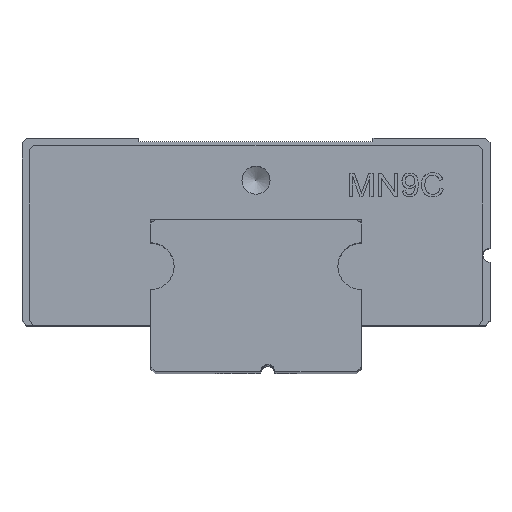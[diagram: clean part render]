
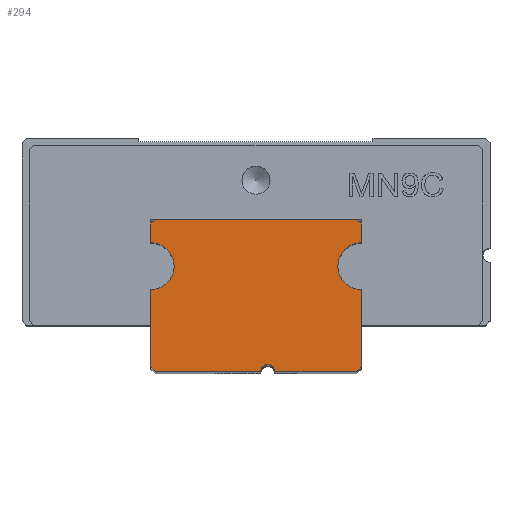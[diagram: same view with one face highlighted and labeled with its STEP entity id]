
A CAD part, top view. The second image highlights one B-rep face of the part: STEP entity #294.
In plain terms, the highlighted planar face has unit normal (0, 0, 1).
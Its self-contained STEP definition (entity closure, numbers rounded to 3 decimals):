
#203=PLANE('',#2637);
#294=ADVANCED_FACE('',(#451),#203,.F.);
#451=FACE_OUTER_BOUND('',#565,.T.);
#565=EDGE_LOOP('',(#954,#955,#956,#957,#958,#959,#960,#961,#962,#963,#964,
#965,#966,#967));
#719=CIRCLE('',#2617,0.3);
#724=CIRCLE('',#2625,1.);
#729=CIRCLE('',#2634,1.);
#954=ORIENTED_EDGE('',*,*,#1854,.T.);
#955=ORIENTED_EDGE('',*,*,#1885,.T.);
#956=ORIENTED_EDGE('',*,*,#1858,.T.);
#957=ORIENTED_EDGE('',*,*,#1864,.T.);
#958=ORIENTED_EDGE('',*,*,#1867,.T.);
#959=ORIENTED_EDGE('',*,*,#1886,.T.);
#960=ORIENTED_EDGE('',*,*,#1870,.T.);
#961=ORIENTED_EDGE('',*,*,#1887,.T.);
#962=ORIENTED_EDGE('',*,*,#1875,.T.);
#963=ORIENTED_EDGE('',*,*,#1881,.T.);
#964=ORIENTED_EDGE('',*,*,#1884,.T.);
#965=ORIENTED_EDGE('',*,*,#1888,.T.);
#966=ORIENTED_EDGE('',*,*,#1842,.T.);
#967=ORIENTED_EDGE('',*,*,#1851,.T.);
#1597=VERTEX_POINT('',#3476);
#1598=VERTEX_POINT('',#3477);
#1602=VERTEX_POINT('',#3520);
#1604=VERTEX_POINT('',#3526);
#1605=VERTEX_POINT('',#3533);
#1606=VERTEX_POINT('',#3534);
#1610=VERTEX_POINT('',#3544);
#1612=VERTEX_POINT('',#3550);
#1615=VERTEX_POINT('',#3557);
#1616=VERTEX_POINT('',#3559);
#1620=VERTEX_POINT('',#3569);
#1621=VERTEX_POINT('',#3570);
#1625=VERTEX_POINT('',#3580);
#1627=VERTEX_POINT('',#3586);
#1842=EDGE_CURVE('',#1597,#1598,#2185,.T.);
#1851=EDGE_CURVE('',#1598,#1602,#719,.T.);
#1854=EDGE_CURVE('',#1602,#1604,#2192,.T.);
#1858=EDGE_CURVE('',#1605,#1606,#2193,.T.);
#1864=EDGE_CURVE('',#1606,#1610,#724,.T.);
#1867=EDGE_CURVE('',#1610,#1612,#2200,.T.);
#1870=EDGE_CURVE('',#1616,#1615,#2203,.T.);
#1875=EDGE_CURVE('',#1620,#1621,#2205,.T.);
#1881=EDGE_CURVE('',#1621,#1625,#729,.T.);
#1884=EDGE_CURVE('',#1625,#1627,#2212,.T.);
#1885=EDGE_CURVE('',#1604,#1605,#2213,.T.);
#1886=EDGE_CURVE('',#1612,#1616,#2214,.T.);
#1887=EDGE_CURVE('',#1615,#1620,#2215,.T.);
#1888=EDGE_CURVE('',#1627,#1597,#2216,.T.);
#2185=LINE('',#3475,#2387);
#2192=LINE('',#3527,#2394);
#2193=LINE('',#3532,#2395);
#2200=LINE('',#3551,#2402);
#2203=LINE('',#3558,#2405);
#2205=LINE('',#3568,#2407);
#2212=LINE('',#3587,#2414);
#2213=LINE('',#3589,#2415);
#2214=LINE('',#3590,#2416);
#2215=LINE('',#3591,#2417);
#2216=LINE('',#3592,#2418);
#2387=VECTOR('',#2778,1.);
#2394=VECTOR('',#2797,1.);
#2395=VECTOR('',#2806,1.);
#2402=VECTOR('',#2821,1.);
#2405=VECTOR('',#2826,1.);
#2407=VECTOR('',#2836,1.);
#2414=VECTOR('',#2851,1.);
#2415=VECTOR('',#2854,1.);
#2416=VECTOR('',#2855,1.);
#2417=VECTOR('',#2856,1.);
#2418=VECTOR('',#2857,1.);
#2617=AXIS2_PLACEMENT_3D('',#3521,#2791,#2792);
#2625=AXIS2_PLACEMENT_3D('',#3545,#2815,#2816);
#2634=AXIS2_PLACEMENT_3D('',#3581,#2845,#2846);
#2637=AXIS2_PLACEMENT_3D('',#3593,#2858,#2859);
#2778=DIRECTION('',(1.,0.,0.));
#2791=DIRECTION('',(0.,0.,-1.));
#2792=DIRECTION('',(-1.,0.,0.));
#2797=DIRECTION('',(1.,0.,0.));
#2806=DIRECTION('',(0.,1.,0.));
#2815=DIRECTION('',(0.,0.,-1.));
#2816=DIRECTION('',(0.,-1.,0.));
#2821=DIRECTION('',(0.,1.,0.));
#2826=DIRECTION('',(-1.,0.,0.));
#2836=DIRECTION('',(0.,-1.,0.));
#2845=DIRECTION('',(0.,0.,-1.));
#2846=DIRECTION('',(0.,1.,0.));
#2851=DIRECTION('',(0.,-1.,0.));
#2854=DIRECTION('',(0.707,0.707,0.));
#2855=DIRECTION('',(-0.707,0.707,0.));
#2856=DIRECTION('',(-0.707,-0.707,0.));
#2857=DIRECTION('',(0.707,-0.707,0.));
#2858=DIRECTION('',(0.,0.,-1.));
#2859=DIRECTION('',(1.,0.,0.));
#3475=CARTESIAN_POINT('',(-4.3,0.,27.5));
#3476=CARTESIAN_POINT('',(-4.3,0.,27.5));
#3477=CARTESIAN_POINT('',(0.2,0.,27.5));
#3520=CARTESIAN_POINT('',(0.8,0.,27.5));
#3521=CARTESIAN_POINT('',(0.5,0.,27.5));
#3526=CARTESIAN_POINT('',(4.3,0.,27.5));
#3527=CARTESIAN_POINT('',(0.8,0.,27.5));
#3532=CARTESIAN_POINT('',(4.5,0.2,27.5));
#3533=CARTESIAN_POINT('',(4.5,0.2,27.5));
#3534=CARTESIAN_POINT('',(4.5,3.5,27.5));
#3544=CARTESIAN_POINT('',(4.5,5.5,27.5));
#3545=CARTESIAN_POINT('',(4.5,4.5,27.5));
#3550=CARTESIAN_POINT('',(4.5,6.3,27.5));
#3551=CARTESIAN_POINT('',(4.5,5.5,27.5));
#3557=CARTESIAN_POINT('',(-4.3,6.5,27.5));
#3558=CARTESIAN_POINT('',(4.3,6.5,27.5));
#3559=CARTESIAN_POINT('',(4.3,6.5,27.5));
#3568=CARTESIAN_POINT('',(-4.5,6.3,27.5));
#3569=CARTESIAN_POINT('',(-4.5,6.3,27.5));
#3570=CARTESIAN_POINT('',(-4.5,5.5,27.5));
#3580=CARTESIAN_POINT('',(-4.5,3.5,27.5));
#3581=CARTESIAN_POINT('',(-4.5,4.5,27.5));
#3586=CARTESIAN_POINT('',(-4.5,0.2,27.5));
#3587=CARTESIAN_POINT('',(-4.5,3.5,27.5));
#3589=CARTESIAN_POINT('',(4.3,0.,27.5));
#3590=CARTESIAN_POINT('',(4.5,6.3,27.5));
#3591=CARTESIAN_POINT('',(-4.3,6.5,27.5));
#3592=CARTESIAN_POINT('',(-4.5,0.2,27.5));
#3593=CARTESIAN_POINT('',(4.95,-0.325,27.5));
